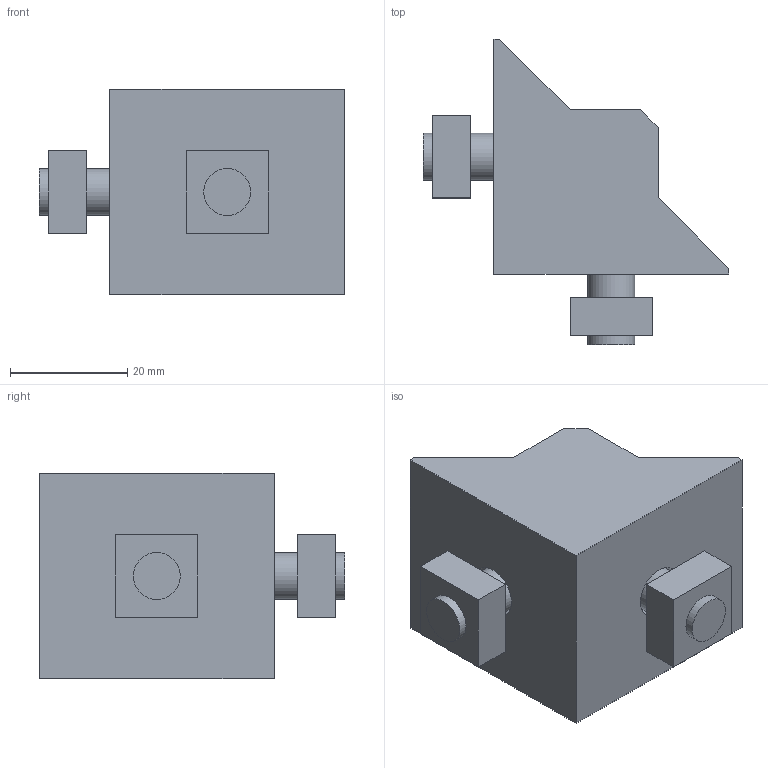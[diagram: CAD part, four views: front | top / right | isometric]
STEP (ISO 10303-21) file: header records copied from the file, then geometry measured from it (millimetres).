
FILE_DESCRIPTION((''),'2;1');
FILE_NAME('C:\Documents and Settings\古川典政\My Documents\Inventor\HP用\MasterData\BRACKET\M8\ABLB-4035-8.stp','2008-07-31T10:52:20',(''),(''),'Autodesk Inventor 2008','Autodesk Inventor 2008','');
FILE_SCHEMA(('CONFIG_CONTROL_DESIGN'));
Length unit declared in the file: millimetre
Products named in the file (6): ABLB-4035-8; ABLB-4035-81; ABLB-4035-82; ABLB-4035-83; ABLB-4035-84; ABLB-4035-85
Assembly tree (5 placements, depth 2):
  ABLB-4035-8
    ABLB-4035-81
    ABLB-4035-82
    ABLB-4035-83
    ABLB-4035-84
    ABLB-4035-85
Bounding box: 52 x 52 x 35 mm (x, y, z)
Volume: 32380.3 mm3; surface area: 11765.5 mm2
Topology: 5 solids, 5 shells, 48 faces, 104 edges, 68 vertices
Faces by surface type: plane 34, bspline 10, cylinder 4
Full cylindrical faces by diameter (mm): 8 x2, 13 x2
Entity records: 1494 total; most frequent: CARTESIAN_POINT 355, DIRECTION 213, ORIENTED_EDGE 180, EDGE_CURVE 90, AXIS2_PLACEMENT_3D 74, EDGE_LOOP 68, VECTOR 65, LINE 65
